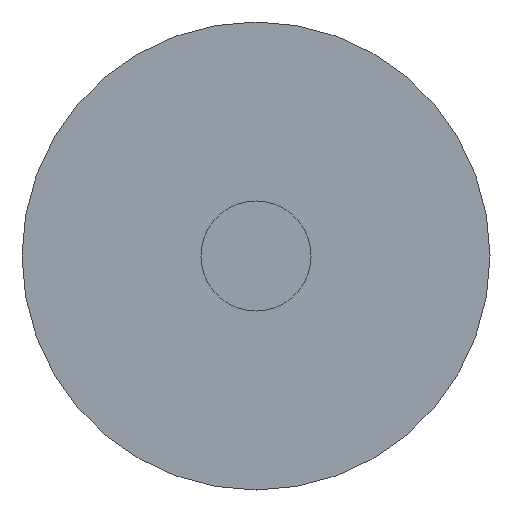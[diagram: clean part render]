
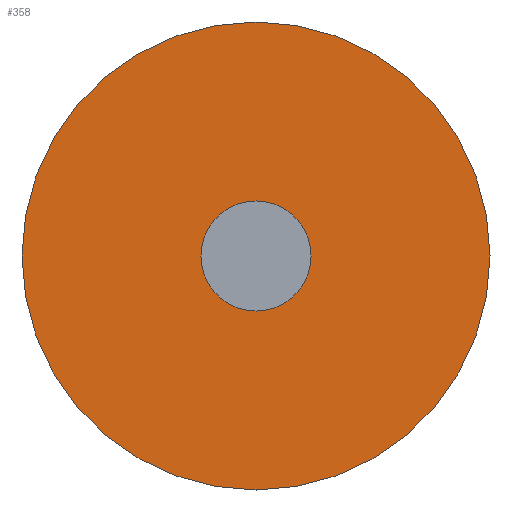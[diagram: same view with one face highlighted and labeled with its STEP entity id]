
A CAD part, front view. The second image highlights one B-rep face of the part: STEP entity #358.
In plain terms, the highlighted planar face has unit normal (0, -1, 0).
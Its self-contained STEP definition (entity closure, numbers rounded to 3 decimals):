
#17 = CARTESIAN_POINT ( 'NONE',  ( 2.25, -6.5, 0. ) ) ;
#28 = EDGE_CURVE ( 'NONE', #285, #214, #123, .T. ) ;
#37 = EDGE_CURVE ( 'NONE', #393, #363, #435, .T. ) ;
#46 = DIRECTION ( 'NONE',  ( 0., 1., 0. ) ) ;
#62 = CARTESIAN_POINT ( 'NONE',  ( 0., -6.5, 0. ) ) ;
#65 = EDGE_LOOP ( 'NONE', ( #99, #570 ) ) ;
#87 = CARTESIAN_POINT ( 'NONE',  ( 2.25, -6.5, 0. ) ) ;
#95 = AXIS2_PLACEMENT_3D ( 'NONE', #87, #298, #400 ) ;
#99 = ORIENTED_EDGE ( 'NONE', *, *, #326, .F. ) ;
#100 = ORIENTED_EDGE ( 'NONE', *, *, #28, .T. ) ;
#119 = CARTESIAN_POINT ( 'NONE',  ( 12.75, -6.5, 0. ) ) ;
#123 = CIRCLE ( 'NONE', #513, 2.25 ) ;
#141 = CARTESIAN_POINT ( 'NONE',  ( 0., -6.5, 0. ) ) ;
#164 = CIRCLE ( 'NONE', #559, 2.25 ) ;
#166 = DIRECTION ( 'NONE',  ( 0., 1., 0. ) ) ;
#194 = DIRECTION ( 'NONE',  ( 0., 1., 0. ) ) ;
#207 = CARTESIAN_POINT ( 'NONE',  ( 0., -6.5, 0. ) ) ;
#214 = VERTEX_POINT ( 'NONE', #283 ) ;
#219 = EDGE_CURVE ( 'NONE', #214, #285, #164, .T. ) ;
#274 = DIRECTION ( 'NONE',  ( -1., 0., 0. ) ) ;
#283 = CARTESIAN_POINT ( 'NONE',  ( -2.25, -6.5, 0. ) ) ;
#285 = VERTEX_POINT ( 'NONE', #17 ) ;
#298 = DIRECTION ( 'NONE',  ( 0., 1., 0. ) ) ;
#302 = EDGE_LOOP ( 'NONE', ( #511, #100 ) ) ;
#313 = DIRECTION ( 'NONE',  ( -1., 0., 0. ) ) ;
#326 = EDGE_CURVE ( 'NONE', #363, #393, #339, .T. ) ;
#339 = CIRCLE ( 'NONE', #424, 12.75 ) ;
#356 = DIRECTION ( 'NONE',  ( -1., 0., 0. ) ) ;
#358 = ADVANCED_FACE ( 'NONE', ( #569, #421 ), #388, .F. ) ;
#363 = VERTEX_POINT ( 'NONE', #430 ) ;
#388 = PLANE ( 'NONE',  #95 ) ;
#389 = DIRECTION ( 'NONE',  ( -1., 0., 0. ) ) ;
#393 = VERTEX_POINT ( 'NONE', #119 ) ;
#400 = DIRECTION ( 'NONE',  ( -1., 0., 0. ) ) ;
#421 = FACE_BOUND ( 'NONE', #302, .T. ) ;
#424 = AXIS2_PLACEMENT_3D ( 'NONE', #207, #166, #389 ) ;
#430 = CARTESIAN_POINT ( 'NONE',  ( -12.75, -6.5, 0. ) ) ;
#435 = CIRCLE ( 'NONE', #566, 12.75 ) ;
#491 = CARTESIAN_POINT ( 'NONE',  ( 0., -6.5, 0. ) ) ;
#511 = ORIENTED_EDGE ( 'NONE', *, *, #219, .T. ) ;
#513 = AXIS2_PLACEMENT_3D ( 'NONE', #141, #46, #356 ) ;
#559 = AXIS2_PLACEMENT_3D ( 'NONE', #62, #194, #274 ) ;
#566 = AXIS2_PLACEMENT_3D ( 'NONE', #491, #575, #313 ) ;
#569 = FACE_OUTER_BOUND ( 'NONE', #65, .T. ) ;
#570 = ORIENTED_EDGE ( 'NONE', *, *, #37, .F. ) ;
#575 = DIRECTION ( 'NONE',  ( 0., 1., 0. ) ) ;
